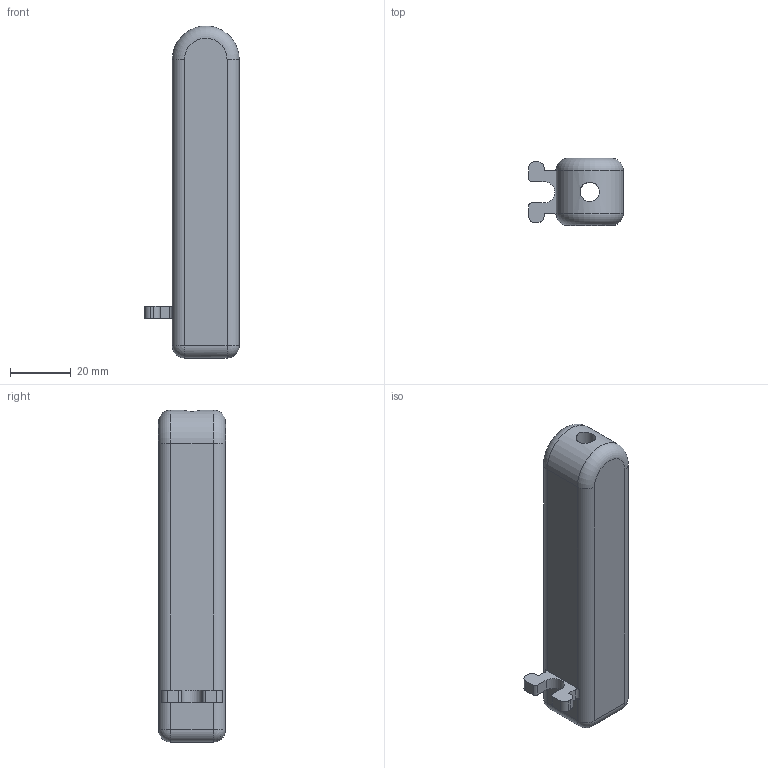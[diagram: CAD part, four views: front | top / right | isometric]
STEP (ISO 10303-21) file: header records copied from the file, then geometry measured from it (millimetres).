
FILE_DESCRIPTION(/* description */ (''),/* implementation_level */ '2;1');
FILE_NAME(/* name */ 'C:/Users/Owner/Desktop/K-CAD Songbird PM4 Centerfire/STEP/Barrels/Barrel Type 3/Barrel Type 3 0.25 inch ID.step',/* time_stamp */ '2020-12-05T21:32:39-05:00',/* author */ (''),/* organization */ (''),/* preprocessor_version */ 'ST-DEVELOPER v18.1',/* originating_system */ 'Autodesk Translation Framework v9.3.0.1241',/* authorisation */ '');
FILE_SCHEMA (('AUTOMOTIVE_DESIGN { 1 0 10303 214 3 1 1 }'));
Length unit declared in the file: inch
Products named in the file (1): Barrel Type 3 0.25 inch ID
Bounding box: 31 x 22 x 109 mm (x, y, z)
Volume: 46734.9 mm3; surface area: 11748.2 mm2
Topology: 1 solids, 1 shells, 43 faces, 111 edges, 69 vertices
Faces by surface type: cylinder 19, plane 18, sphere 4, torus 2
Full cylindrical faces by diameter (mm): 6.35 x1
Entity records: 1383 total; most frequent: CARTESIAN_POINT 259, DIRECTION 241, ORIENTED_EDGE 220, EDGE_CURVE 110, AXIS2_PLACEMENT_3D 89, VERTEX_POINT 69, LINE 63, VECTOR 63
